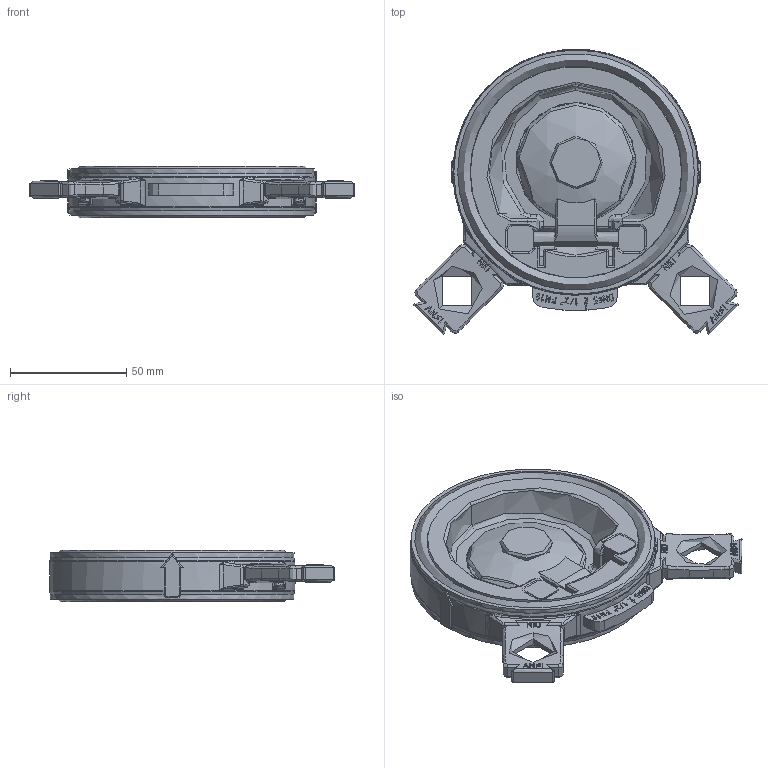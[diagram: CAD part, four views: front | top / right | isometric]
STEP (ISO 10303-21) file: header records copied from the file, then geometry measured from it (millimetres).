
FILE_DESCRIPTION(/* description */ ('Valvola a clapet d.75 - corpo','CAx-IF Rec.Pracs.---Representation and Presentation of Product Manufacturing Information (PMI)---3.8---2014-02-18'),/* implementation_level */ '2;1');
FILE_NAME(/* name */ 'C:\Users\POLYPIPE\Desktop\DATASET INVENTOR\LIBRERIA EFFAST\3D_VALVOLE\3D_VALVOLE A CLAPET\3D_CDRCKD0750 (00).stp',/* time_stamp */ '2018-04-20T09:36:16+02:00',/* author */ ('POLYPIPE'),/* organization */ (''),/* preprocessor_version */ 'ST-DEVELOPER v16.1',/* originating_system */ 'Autodesk Inventor 2016',/* authorisation */ '');
FILE_SCHEMA (('AP242_MANAGED_MODEL_BASED_3D_ENGINEERING_MIM_LF { 1 0 10303 442 1 1 4 }'));
Length unit declared in the file: millimetre
Products named in the file (7): CDRCCK0750 (00); CDROTK0750 (00); CDRCCK0750 - asole (00); CDRCCK0750 - tappi (00); OR6362; OR0147; CDRCKD0750 (00)
Assembly tree (7 placements, depth 2):
  CDRCKD0750 (00)
    CDRCCK0750 (00)
    CDROTK0750 (00)
    CDRCCK0750 - asole (00)
    CDRCCK0750 - tappi (00)
    OR6362  x2
    OR0147
Bounding box: 139.83 x 122.72 x 22.28 mm (x, y, z)
Volume: 127841.2 mm3; surface area: 60030.8 mm2
Topology: 9 solids, 9 shells, 1197 faces, 3192 edges, 2009 vertices
Faces by surface type: bspline 555, plane 360, cylinder 221, torus 26, sphere 19, cone 16
Full cylindrical faces by diameter (mm): 6 x1, 18 x2, 46 x1, 91 x2, 102 x2, 105.2 x2
Entity records: 76950 total; most frequent: CARTESIAN_POINT 49288, ORIENTED_EDGE 6206, DIRECTION 4303, EDGE_CURVE 3103, VERTEX_POINT 1994, AXIS2_PLACEMENT_3D 1551, EDGE_LOOP 1277, LINE 1201
